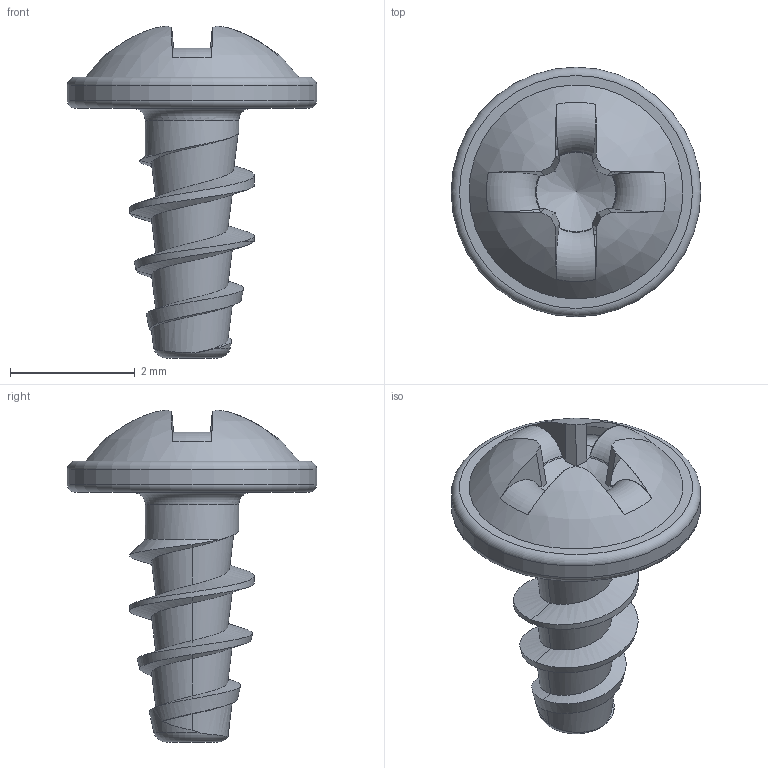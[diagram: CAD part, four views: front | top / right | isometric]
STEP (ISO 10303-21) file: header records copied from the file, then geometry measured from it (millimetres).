
FILE_DESCRIPTION(/* description */ (''),/* implementation_level */ '2;1');
FILE_NAME(/* name */ 'KN1031-STS-20x4-H1.step',/* time_stamp */ '2017-10-12T13:26:08+02:00',/* author */ (''),/* organization */ (''),/* preprocessor_version */ 'ST-DEVELOPER v16',/* originating_system */ 'SIEMENS PLM Software NX 10.0',/* authorisation */ '');
FILE_SCHEMA (('AUTOMOTIVE_DESIGN { 1 0 10303 214 3 1 1 1 }'));
Length unit declared in the file: millimetre
Products named in the file (1): KN1031-STS-20x4-H1
Bounding box: 4 x 4 x 5.32 mm (x, y, z)
Volume: 15.5 mm3; surface area: 58.3 mm2
Topology: 1 solids, 1 shells, 53 faces, 141 edges, 91 vertices
Faces by surface type: plane 20, bspline 14, torus 8, cone 7, cylinder 3, sphere 1
Full cylindrical faces by diameter (mm): 1.5 x1, 4 x1
Entity records: 2481 total; most frequent: CARTESIAN_POINT 1338, ORIENTED_EDGE 254, DIRECTION 185, EDGE_CURVE 127, VERTEX_POINT 86, AXIS2_PLACEMENT_3D 81, B_SPLINE_CURVE_WITH_KNOTS 63, EDGE_LOOP 62
